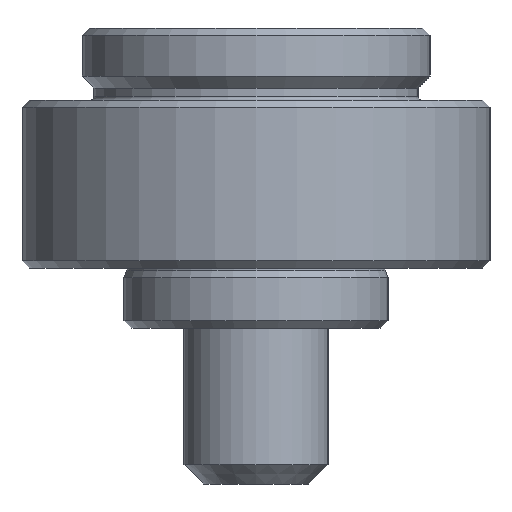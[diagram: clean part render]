
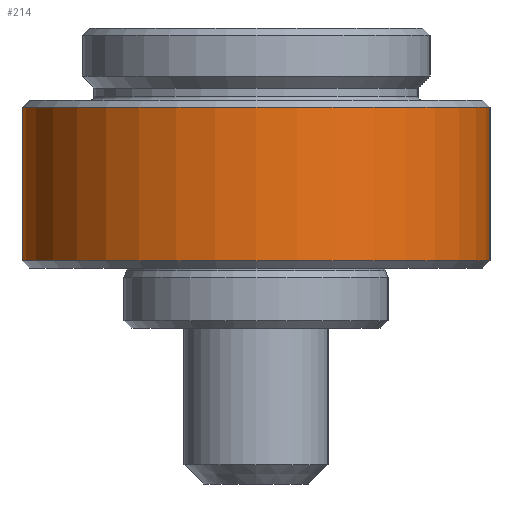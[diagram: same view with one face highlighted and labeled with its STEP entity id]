
A CAD part, left-side view. The second image highlights one B-rep face of the part: STEP entity #214.
In plain terms, the highlighted cylindrical face has radius 19.5 mm (diameter 39 mm), a full revolution.
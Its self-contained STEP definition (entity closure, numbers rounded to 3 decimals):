
#214=ADVANCED_FACE('',(#532,#534),#536,.T.);
#532=FACE_OUTER_BOUND('',#533,.T.);
#533=EDGE_LOOP('',(#637));
#534=FACE_OUTER_BOUND('',#535,.T.);
#535=EDGE_LOOP('',(#638));
#536=CYLINDRICAL_SURFACE('',#537,19.5);
#537=AXIS2_PLACEMENT_3D('',#538,#539,#540);
#538=CARTESIAN_POINT('',(0.,0.,19.));
#539=DIRECTION('',(0.,0.,1.));
#540=DIRECTION('',(1.,0.,0.));
#637=ORIENTED_EDGE('',*,*,#686,.F.);
#638=ORIENTED_EDGE('',*,*,#687,.T.);
#686=EDGE_CURVE('',#776,#776,#777,.T.);
#687=EDGE_CURVE('',#778,#778,#779,.T.);
#776=VERTEX_POINT('',#1243);
#777=CIRCLE('',#1244,19.5);
#778=VERTEX_POINT('',#1248);
#779=CIRCLE('',#1249,19.5);
#1243=CARTESIAN_POINT('',(19.5,0.,18.4));
#1244=AXIS2_PLACEMENT_3D('',#1245,#1246,#1247);
#1245=CARTESIAN_POINT('',(0.,0.,18.4));
#1246=DIRECTION('',(0.,0.,1.));
#1247=DIRECTION('',(1.,0.,0.));
#1248=CARTESIAN_POINT('',(19.5,0.,5.6));
#1249=AXIS2_PLACEMENT_3D('',#1250,#1251,#1252);
#1250=CARTESIAN_POINT('',(0.,0.,5.6));
#1251=DIRECTION('',(0.,0.,1.));
#1252=DIRECTION('',(1.,0.,0.));
